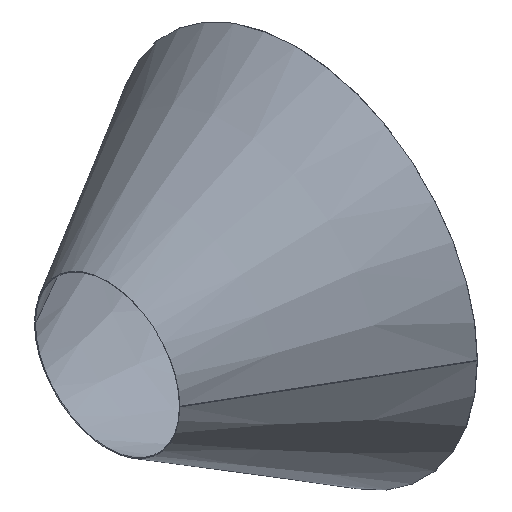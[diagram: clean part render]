
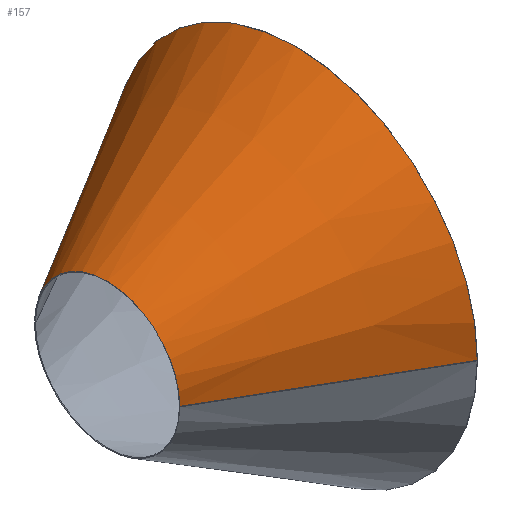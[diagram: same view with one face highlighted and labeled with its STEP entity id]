
A CAD part, isometric view. The second image highlights one B-rep face of the part: STEP entity #157.
In plain terms, the highlighted conical face has half-angle 29.982 degrees and reference radius 350 mm.
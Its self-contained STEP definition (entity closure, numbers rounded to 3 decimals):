
#91=CARTESIAN_POINT('',(488.536,-683.582,0.));
#92=VERTEX_POINT('',#91);
#108=CARTESIAN_POINT('',(488.536,316.418,0.0));
#109=VERTEX_POINT('',#108);
#116=CARTESIAN_POINT('',(488.536,-183.582,0.0));
#117=DIRECTION('',(1.0,0.0,0.0));
#118=DIRECTION('',(0.0,1.0,0.0));
#119=AXIS2_PLACEMENT_3D('',#116,#117,#118);
#120=CIRCLE('',#119,500.0);
#121=EDGE_CURVE('',#109,#92,#120,.T.);
#126=CARTESIAN_POINT('',(228.536,-183.582,0.0));
#127=DIRECTION('',(1.0,0.0,0.0));
#128=DIRECTION('',(0.0,1.0,0.0));
#129=AXIS2_PLACEMENT_3D('',#126,#127,#128);
#130=CONICAL_SURFACE('',#129,350.0,29.982);
#131=CARTESIAN_POINT('',(-31.464,-383.582,0.));
#132=VERTEX_POINT('',#131);
#133=CARTESIAN_POINT('',(488.536,-683.582,0.));
#134=DIRECTION('',(-0.866,0.5,0.));
#135=VECTOR('',#134,600.333);
#136=LINE('',#133,#135);
#137=EDGE_CURVE('',#92,#132,#136,.T.);
#138=ORIENTED_EDGE('',*,*,#137,.F.);
#139=ORIENTED_EDGE('',*,*,#121,.F.);
#140=CARTESIAN_POINT('',(-31.464,16.418,0.0));
#141=VERTEX_POINT('',#140);
#142=CARTESIAN_POINT('',(488.536,316.418,0.0));
#143=DIRECTION('',(-0.866,-0.5,0.0));
#144=VECTOR('',#143,600.333);
#145=LINE('',#142,#144);
#146=EDGE_CURVE('',#109,#141,#145,.T.);
#147=ORIENTED_EDGE('',*,*,#146,.T.);
#148=CARTESIAN_POINT('',(-31.464,-183.582,0.0));
#149=DIRECTION('',(1.0,0.0,0.0));
#150=DIRECTION('',(0.0,1.0,0.0));
#151=AXIS2_PLACEMENT_3D('',#148,#149,#150);
#152=CIRCLE('',#151,200.);
#153=EDGE_CURVE('',#141,#132,#152,.T.);
#154=ORIENTED_EDGE('',*,*,#153,.T.);
#155=EDGE_LOOP('',(#138,#139,#147,#154));
#156=FACE_OUTER_BOUND('',#155,.T.);
#157=ADVANCED_FACE('',(#156),#130,.T.);
